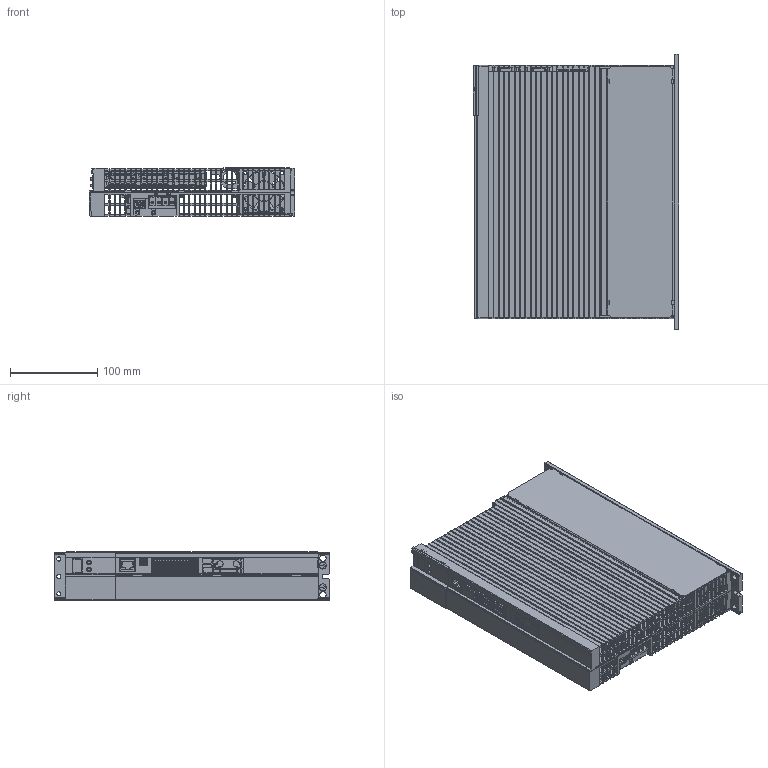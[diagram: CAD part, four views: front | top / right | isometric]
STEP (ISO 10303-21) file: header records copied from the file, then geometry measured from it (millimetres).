
FILE_DESCRIPTION(/* description */ (''),/* implementation_level */ '2;1');
FILE_NAME(/* name */ 'CB06132-001',/* time_stamp */ '2010-05-17T11:32:00+02:00',/* author */ (''),/* organization */ (''),/* preprocessor_version */ 'ST-DEVELOPER v9',/* originating_system */ 'UGS - NX 4.0',/* authorisation */ '');
FILE_SCHEMA (('AUTOMOTIVE_DESIGN { 1 0 10303 214 1 1 1 1 }'));
Products named in the file (1): sdumEB10k1vn
Bounding box: 235.49 x 315 x 56 mm (x, y, z)
Volume: 731437 mm3; surface area: 593424.2 mm2
Topology: 38 solids, 38 shells, 6441 faces, 17714 edges, 11463 vertices
Faces by surface type: plane 5086, cylinder 1036, cone 169, bspline 114, torus 24, sphere 12
Entity records: 252922 total; most frequent: CARTESIAN_POINT 43503, ORIENTED_EDGE 35364, DIRECTION 31951, EDGE_CURVE 17682, LINE 14831, VECTOR 14831, VERTEX_POINT 11453, AXIS2_PLACEMENT_3D 8560
